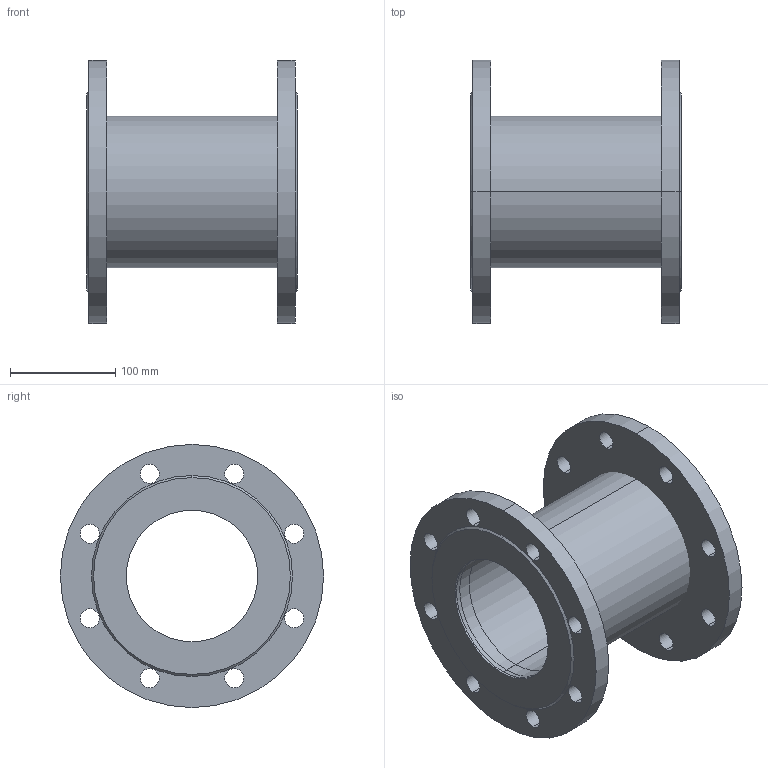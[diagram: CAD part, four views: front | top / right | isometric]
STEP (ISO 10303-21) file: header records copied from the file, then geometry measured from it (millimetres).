
FILE_DESCRIPTION(('STEP AP214'),'1');
FILE_NAME('U:/VDI-Daten/8500/8500_PN16_DN125_L200.STP','2012-06-12T15:08:01',(' '),(' '),'Spatial InterOp 3D',' ',' ');
FILE_SCHEMA(('automotive_design'));
Length unit declared in the file: millimetre
Products named in the file (5): 3D-Objekt
Bounding box: 200 x 250 x 250 mm (x, y, z)
Volume: 1998307.3 mm3; surface area: 429113.7 mm2
Topology: 5 solids, 5 shells, 62 faces, 156 edges, 104 vertices
Faces by surface type: cylinder 48, plane 10, cone 4
Entity records: 2621 total; most frequent: DIRECTION 394, CARTESIAN_POINT 327, ORIENTED_EDGE 312, AXIS2_PLACEMENT_3D 171, EDGE_CURVE 156, EDGE_LOOP 104, VERTEX_POINT 104, CIRCLE 104
